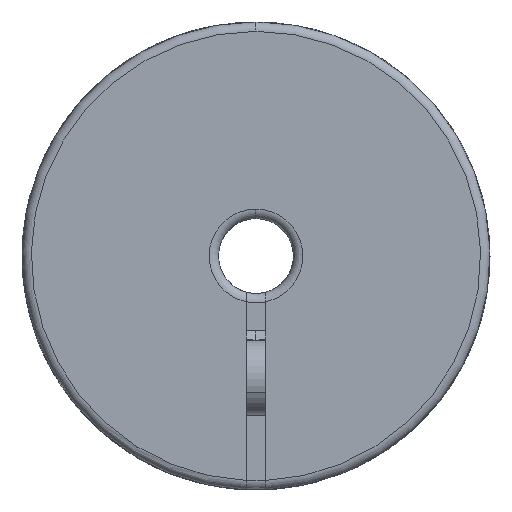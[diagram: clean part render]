
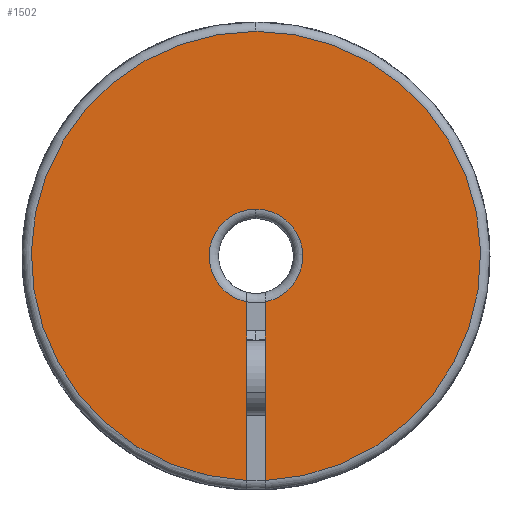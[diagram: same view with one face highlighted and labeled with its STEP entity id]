
A CAD part, front view. The second image highlights one B-rep face of the part: STEP entity #1502.
In plain terms, the highlighted planar face has unit normal (0, -1, 0) as drawn and (0, 0, -1) by its records, which use the part's own axes.
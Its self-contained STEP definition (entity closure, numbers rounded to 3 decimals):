
#209 = AXIS2_PLACEMENT_3D ( 'NONE', #4003, #4026, #731 ) ;
#286 = CIRCLE ( 'NONE', #4632, 2.5 ) ;
#355 = ORIENTED_EDGE ( 'NONE', *, *, #3533, .T. ) ;
#461 = ORIENTED_EDGE ( 'NONE', *, *, #2884, .F. ) ;
#485 = FACE_OUTER_BOUND ( 'NONE', #625, .T. ) ;
#530 = CIRCLE ( 'NONE', #209, 12. ) ;
#591 = CARTESIAN_POINT ( 'NONE',  ( 0., 0., -9.925 ) ) ;
#599 = DIRECTION ( 'NONE',  ( 0., 0., 1. ) ) ;
#625 = EDGE_LOOP ( 'NONE', ( #2427, #3692, #750, #461, #355, #2719 ) ) ;
#664 = DIRECTION ( 'NONE',  ( 1., 0., 0. ) ) ;
#731 = DIRECTION ( 'NONE',  ( 1., 0., 0. ) ) ;
#750 = ORIENTED_EDGE ( 'NONE', *, *, #2098, .T. ) ;
#787 = VERTEX_POINT ( 'NONE', #4251 ) ;
#910 = AXIS2_PLACEMENT_3D ( 'NONE', #591, #2444, #2471 ) ;
#1006 = DIRECTION ( 'NONE',  ( 1., 0., 0. ) ) ;
#1062 = AXIS2_PLACEMENT_3D ( 'NONE', #3892, #599, #1006 ) ;
#1149 = VECTOR ( 'NONE', #1178, 1000. ) ;
#1178 = DIRECTION ( 'NONE',  ( -1., 0., 0. ) ) ;
#1184 = EDGE_CURVE ( 'NONE', #3499, #3876, #2909, .T. ) ;
#1193 = VERTEX_POINT ( 'NONE', #2646 ) ;
#1502 = ADVANCED_FACE ( 'NONE', ( #485 ), #3050, .F. ) ;
#1716 = EDGE_CURVE ( 'NONE', #2465, #3876, #530, .T. ) ;
#2098 = EDGE_CURVE ( 'NONE', #787, #1193, #286, .T. ) ;
#2162 = LINE ( 'NONE', #3255, #2428 ) ;
#2174 = DIRECTION ( 'NONE',  ( 1., 0., 0. ) ) ;
#2353 = CARTESIAN_POINT ( 'NONE',  ( 0., 0., -9.925 ) ) ;
#2427 = ORIENTED_EDGE ( 'NONE', *, *, #1184, .F. ) ;
#2428 = VECTOR ( 'NONE', #664, 1000. ) ;
#2444 = DIRECTION ( 'NONE',  ( 0., 0., -1. ) ) ;
#2465 = VERTEX_POINT ( 'NONE', #4563 ) ;
#2471 = DIRECTION ( 'NONE',  ( 1., 0., 0. ) ) ;
#2510 = DIRECTION ( 'NONE',  ( 0., 0., 1. ) ) ;
#2602 = CIRCLE ( 'NONE', #1062, 2.5 ) ;
#2646 = CARTESIAN_POINT ( 'NONE',  ( -2.449, 0.5, -9.925 ) ) ;
#2719 = ORIENTED_EDGE ( 'NONE', *, *, #1716, .T. ) ;
#2884 = EDGE_CURVE ( 'NONE', #3848, #1193, #2162, .T. ) ;
#2909 = LINE ( 'NONE', #4354, #1149 ) ;
#3050 = PLANE ( 'NONE',  #3284 ) ;
#3128 = CIRCLE ( 'NONE', #910, 12. ) ;
#3255 = CARTESIAN_POINT ( 'NONE',  ( -1., 0.5, -9.925 ) ) ;
#3284 = AXIS2_PLACEMENT_3D ( 'NONE', #2353, #3791, #4178 ) ;
#3499 = VERTEX_POINT ( 'NONE', #4246 ) ;
#3533 = EDGE_CURVE ( 'NONE', #3848, #2465, #3128, .T. ) ;
#3692 = ORIENTED_EDGE ( 'NONE', *, *, #4541, .T. ) ;
#3791 = DIRECTION ( 'NONE',  ( 0., 0., 1. ) ) ;
#3848 = VERTEX_POINT ( 'NONE', #4377 ) ;
#3876 = VERTEX_POINT ( 'NONE', #4470 ) ;
#3892 = CARTESIAN_POINT ( 'NONE',  ( 0., 0., -9.925 ) ) ;
#3947 = CARTESIAN_POINT ( 'NONE',  ( 0., 0., -9.925 ) ) ;
#4003 = CARTESIAN_POINT ( 'NONE',  ( 0., 0., -9.925 ) ) ;
#4026 = DIRECTION ( 'NONE',  ( 0., 0., -1. ) ) ;
#4178 = DIRECTION ( 'NONE',  ( 1., 0., 0. ) ) ;
#4246 = CARTESIAN_POINT ( 'NONE',  ( -2.449, -0.5, -9.925 ) ) ;
#4251 = CARTESIAN_POINT ( 'NONE',  ( 2.5, 0., -9.925 ) ) ;
#4354 = CARTESIAN_POINT ( 'NONE',  ( -1., -0.5, -9.925 ) ) ;
#4377 = CARTESIAN_POINT ( 'NONE',  ( -11.99, 0.5, -9.925 ) ) ;
#4470 = CARTESIAN_POINT ( 'NONE',  ( -11.99, -0.5, -9.925 ) ) ;
#4541 = EDGE_CURVE ( 'NONE', #3499, #787, #2602, .T. ) ;
#4563 = CARTESIAN_POINT ( 'NONE',  ( 12., 0., -9.925 ) ) ;
#4632 = AXIS2_PLACEMENT_3D ( 'NONE', #3947, #2510, #2174 ) ;
